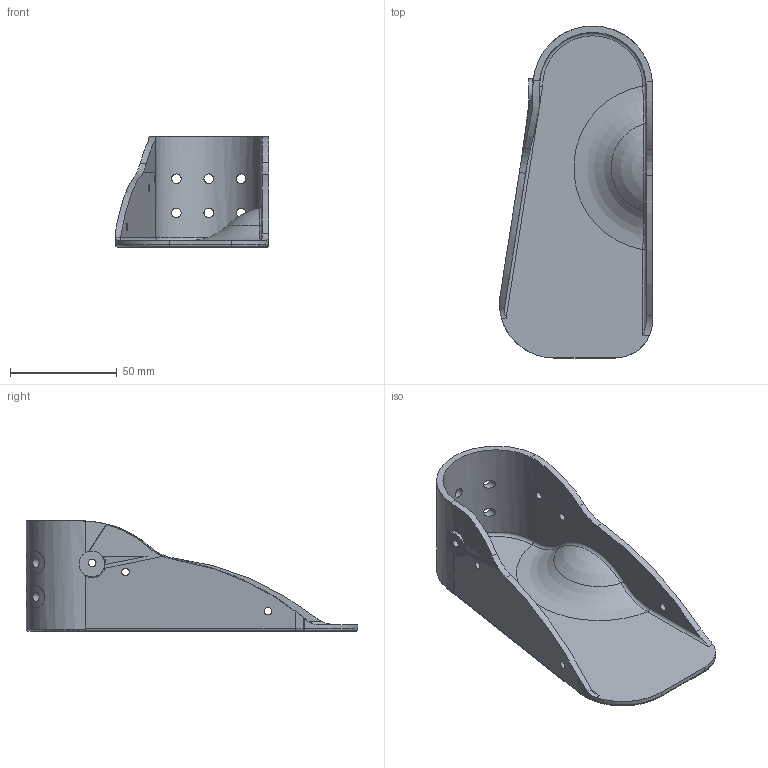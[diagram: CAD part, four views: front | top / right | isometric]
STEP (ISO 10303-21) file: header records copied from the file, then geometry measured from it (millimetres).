
FILE_DESCRIPTION(/* description */ (''),/* implementation_level */ '2;1');
FILE_NAME(/* name */ 'AFO size xl with indent and slanted base right bottom.step',/* time_stamp */ '2025-12-01T13:43:47+01:00',/* author */ (''),/* organization */ (''),/* preprocessor_version */ 'ST-DEVELOPER v20.1',/* originating_system */ 'Autodesk Translation Framework v14.21.0.0',/* authorisation */ '');
FILE_SCHEMA (('AUTOMOTIVE_DESIGN { 1 0 10303 214 3 1 1 }'));
Length unit declared in the file: millimetre
Products named in the file (1): 2025-10-02-12-56-12-317
Bounding box: 71.68 x 155.4 x 51.59 mm (x, y, z)
Volume: 57238.1 mm3; surface area: 39346.8 mm2
Topology: 1 solids, 1 shells, 87 faces, 257 edges, 178 vertices
Faces by surface type: cylinder 46, plane 24, torus 9, bspline 6, sphere 2
Full cylindrical faces by diameter (mm): 3.5 x6, 4.5 x6, 10.48 x6, 12 x1
Entity records: 4285 total; most frequent: CARTESIAN_POINT 2012, ORIENTED_EDGE 514, DIRECTION 388, EDGE_CURVE 257, VERTEX_POINT 178, AXIS2_PLACEMENT_3D 154, EDGE_LOOP 117, B_SPLINE_CURVE_WITH_KNOTS 105
